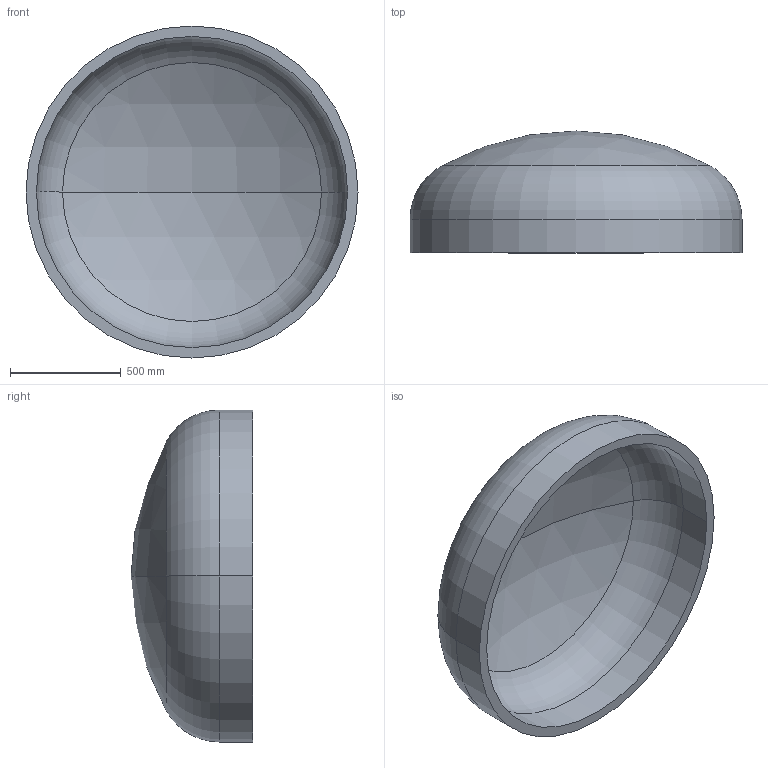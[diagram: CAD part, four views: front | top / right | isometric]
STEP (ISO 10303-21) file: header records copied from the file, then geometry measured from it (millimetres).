
FILE_DESCRIPTION (( 'STEP AP203' ), '1' );
FILE_NAME ('DIN 28013 Korbbogenform_-_Boden DIN 28013 - 1500 x 150 - I - s=47.step', '2016-07-01T10:48:01', ( '' ), ( '' ), 'SwSTEP 2.0', 'SolidWorks 2013', '' );
FILE_SCHEMA (( 'CONFIG_CONTROL_DESIGN' ));
Length unit declared in the file: millimetre
Products named in the file (1): DIN 28013 Korbbogenform_-_Boden DIN 28013 - 1500 x 150 - I - s=47
Bounding box: 1500 x 550.14 x 1500 mm (x, y, z)
Volume: 142507706.4 mm3; surface area: 6283325.1 mm2
Topology: 1 solids, 1 shells, 13 faces, 24 edges, 14 vertices
Faces by surface type: torus 4, cylinder 4, sphere 4, plane 1
Entity records: 407 total; most frequent: DIRECTION 72, CARTESIAN_POINT 52, ORIENTED_EDGE 48, AXIS2_PLACEMENT_3D 34, EDGE_CURVE 24, CIRCLE 20, EDGE_LOOP 14, VERTEX_POINT 14
